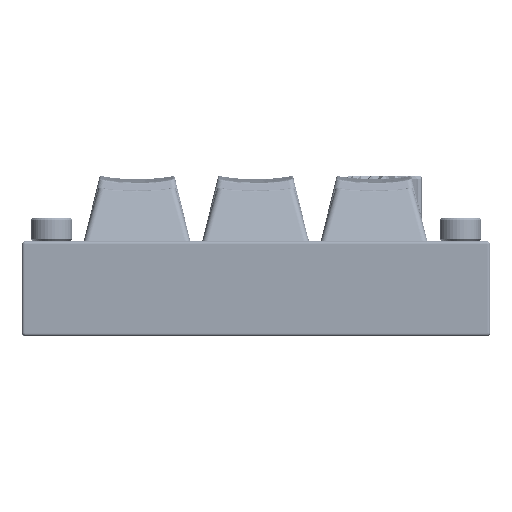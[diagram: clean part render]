
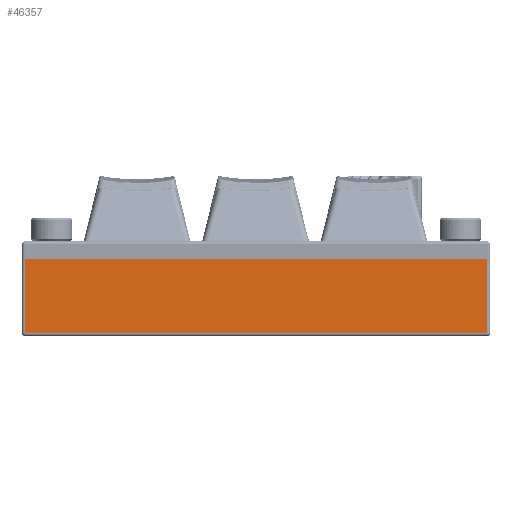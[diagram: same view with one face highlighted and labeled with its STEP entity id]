
A CAD part, front view. The second image highlights one B-rep face of the part: STEP entity #46357.
In plain terms, the highlighted planar face has unit normal (0, -1, 0) as drawn and (0, 0, 1) by its records, which use the part's own axes.
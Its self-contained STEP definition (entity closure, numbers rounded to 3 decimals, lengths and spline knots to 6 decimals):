
#832=PLANE('',#50986);
#4089=LINE('',#73617,#8443);
#4103=LINE('',#73680,#8457);
#4106=LINE('',#73684,#8460);
#4110=LINE('',#73691,#8464);
#8443=VECTOR('',#55395,1.);
#8457=VECTOR('',#55461,1.);
#8460=VECTOR('',#55466,1.);
#8464=VECTOR('',#55476,1.);
#13704=ORIENTED_EDGE('',*,*,#26911,.F.);
#13705=ORIENTED_EDGE('',*,*,#26879,.F.);
#13706=ORIENTED_EDGE('',*,*,#26918,.F.);
#13707=ORIENTED_EDGE('',*,*,#26914,.F.);
#26879=EDGE_CURVE('',#33621,#33622,#4089,.T.);
#26911=EDGE_CURVE('',#33622,#33643,#4103,.F.);
#26914=EDGE_CURVE('',#33643,#33638,#4106,.T.);
#26918=EDGE_CURVE('',#33638,#33621,#4110,.T.);
#33621=VERTEX_POINT('',#73616);
#33622=VERTEX_POINT('',#73618);
#33638=VERTEX_POINT('',#73656);
#33643=VERTEX_POINT('',#73672);
#38925=EDGE_LOOP('',(#13704,#13705,#13706,#13707));
#42231=FACE_BOUND('',#38925,.T.);
#46357=ADVANCED_FACE('',(#42231),#832,.T.);
#50986=AXIS2_PLACEMENT_3D('',#73719,#55517,#55518);
#55395=DIRECTION('',(1.,0.,0.));
#55461=DIRECTION('',(0.,1.,0.));
#55466=DIRECTION('',(-1.,0.,0.));
#55476=DIRECTION('',(0.,1.,0.));
#55517=DIRECTION('',(0.,0.,1.));
#55518=DIRECTION('',(1.,0.,0.));
#73616=CARTESIAN_POINT('',(-0.039,0.013,0.04075));
#73617=CARTESIAN_POINT('',(0.,0.013,0.04075));
#73618=CARTESIAN_POINT('',(0.039,0.013,0.04075));
#73656=CARTESIAN_POINT('',(-0.039,0.0005,0.04075));
#73672=CARTESIAN_POINT('',(0.039,0.0005,0.04075));
#73680=CARTESIAN_POINT('',(0.039,0.,0.04075));
#73684=CARTESIAN_POINT('',(-0.01975,0.0005,0.04075));
#73691=CARTESIAN_POINT('',(-0.039,0.,0.04075));
#73719=CARTESIAN_POINT('',(-0.0395,0.,0.04075));
